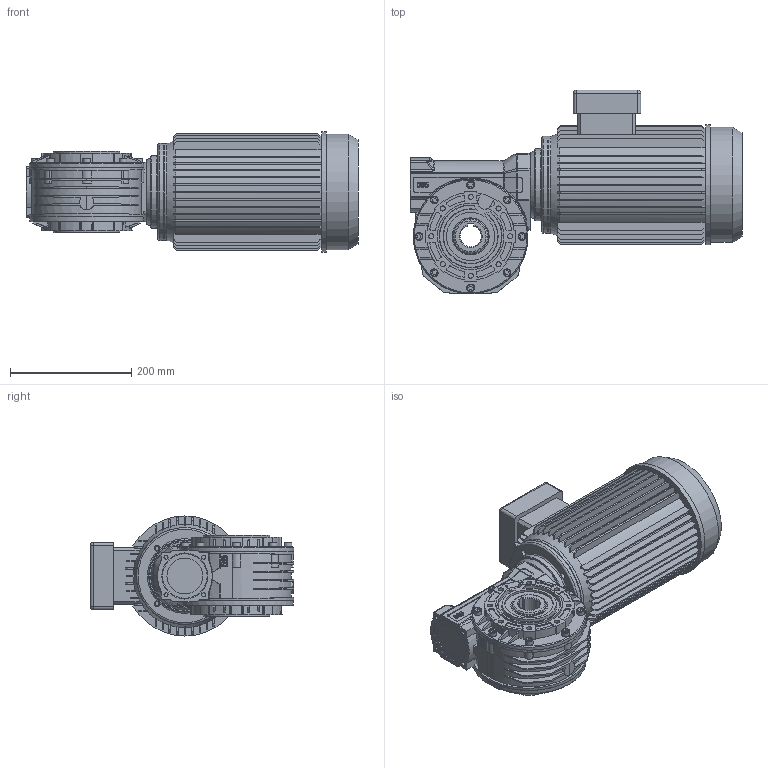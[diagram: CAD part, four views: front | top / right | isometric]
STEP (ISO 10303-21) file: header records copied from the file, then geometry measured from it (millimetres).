
FILE_DESCRIPTION( ( 'Unknown' ), '1' );
FILE_NAME( 'E:/services/configuratordownloads/customers/HYDROMEC/VSF/download/C7EB46AA490C183DCE8E9CE8FABF95/STEP/C7EB46AA490C183DCE8E9CE8FABF95.3d.stp', 'Unknown', ( 'Unknown' ), ( 'Unknown' ), 'PSStep 10.1', 'Unknown', ' ' );
FILE_SCHEMA( ( 'AUTOMOTIVE_DESIGN { 1 0 10303 214 1 1 1 1 }' ) );
Length unit declared in the file: millimetre
Products named in the file (1): 0858800
Bounding box: 547.5 x 335.5 x 198 mm (x, y, z)
Volume: 12690260.3 mm3; surface area: 754350.4 mm2
Topology: 1 solids, 12 shells, 1381 faces, 3625 edges, 2376 vertices
Faces by surface type: plane 837, cylinder 282, bspline 102, cone 93, extrusion 35, torus 26, sphere 6
Full cylindrical faces by diameter (mm): 4.917 x12, 6.647 x8, 6.8 x8, 8.376 x24, 9 x4, 12.8 x8, 45 x1, 55 x2, 59 x1, 62 x1, 68 x1, 80 x2, 103 x1, 107 x1, 110 x2, 119 x1, 160 x2, 170.261 x1, 189 x1, 190 x1, 198 x1
Entity records: 64529 total; most frequent: CARTESIAN_POINT 20756, ORIENTED_EDGE 6892, DIRECTION 6417, EDGE_CURVE 3446, VERTEX_POINT 2337, AXIS2_PLACEMENT_3D 2231, VECTOR 1955, LINE 1920
